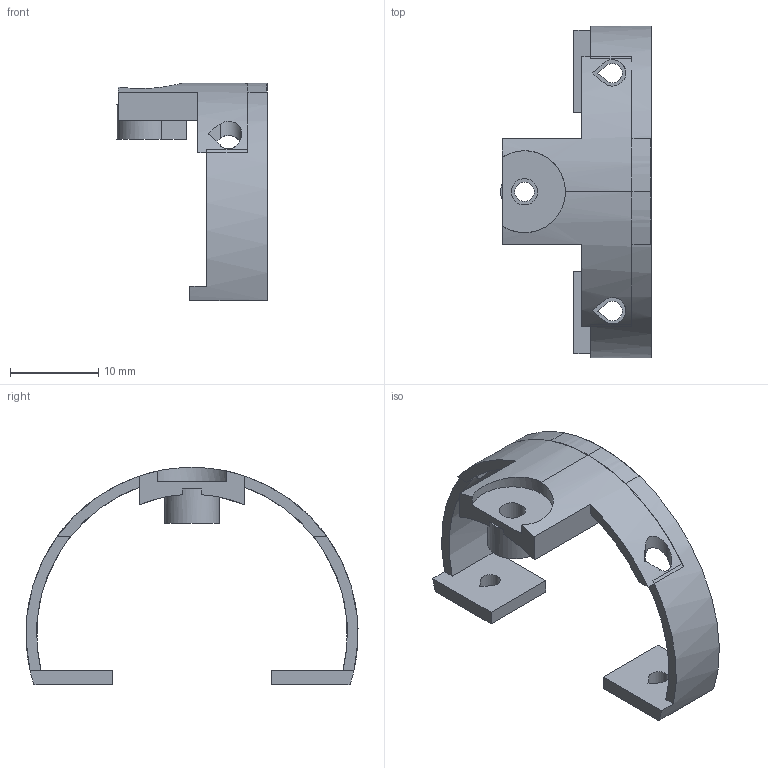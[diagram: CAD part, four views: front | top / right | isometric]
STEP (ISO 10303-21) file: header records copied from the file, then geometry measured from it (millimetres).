
FILE_DESCRIPTION(('SkyG Speed 90B - revision C6B-20 - 2026-10-16','HL2-hatch-lip-rear'),'2;1');
FILE_NAME('HL2-hatch-lip-rear_C6B-20','2026-10-16T01:43:26',('Author'),( 'Open CASCADE'),'Open CASCADE STEP processor 7.9','Open CASCADE 7.9' ,'Unknown');
FILE_SCHEMA(('AUTOMOTIVE_DESIGN { 1 0 10303 214 1 1 1 1 }'));
Length unit declared in the file: millimetre
Products named in the file (6): HL2-hatch-lip-rear C6B-20; Open CASCADE STEP translator 7.9 26.1; Open CASCADE STEP translator 7.9 26.1.1; Open CASCADE STEP translator 7.9 26.1.2; Open CASCADE STEP translator 7.9 26.1.3; Open CASCADE STEP translator 7.9 26.1.4
Assembly tree (5 placements, depth 3):
  HL2-hatch-lip-rear C6B-20
    Open CASCADE STEP translator 7.9 26.1
      Open CASCADE STEP translator 7.9 26.1.1
      Open CASCADE STEP translator 7.9 26.1.2
      Open CASCADE STEP translator 7.9 26.1.3
      Open CASCADE STEP translator 7.9 26.1.4
Bounding box: 17.1 x 37.68 x 24.65 mm (x, y, z)
Volume: 1289.6 mm3; surface area: 2040.3 mm2
Topology: 1 solids, 4 shells, 59 faces, 179 edges, 126 vertices
Faces by surface type: plane 33, cylinder 25, cone 1
Full cylindrical faces by diameter (mm): 2.2 x1, 3 x1
Entity records: 6415 total; most frequent: CARTESIAN_POINT 3050, DIRECTION 588, ORIENTED_EDGE 330, PCURVE 330, DEFINITIONAL_REPRESENTATION 330, LINE 281, VECTOR 281, EDGE_CURVE 179
